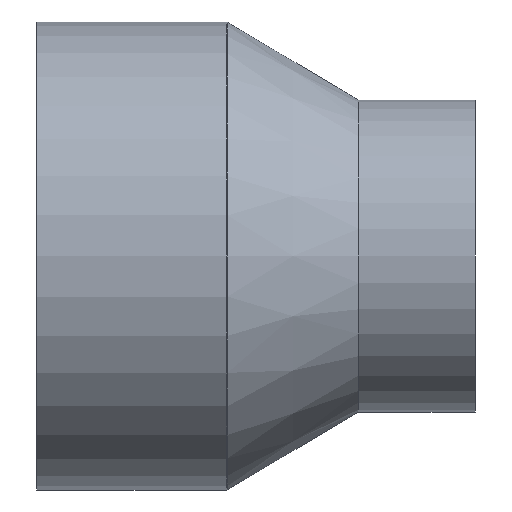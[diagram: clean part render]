
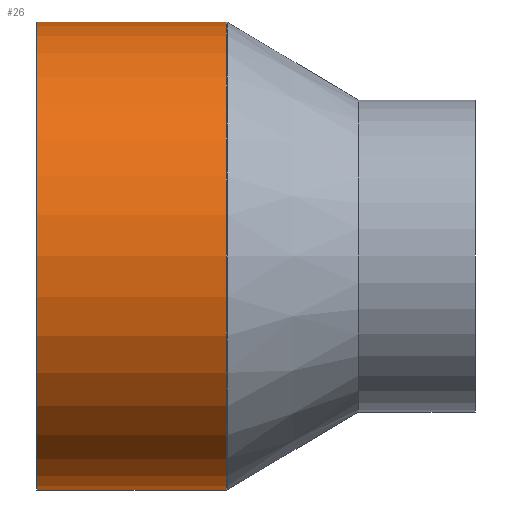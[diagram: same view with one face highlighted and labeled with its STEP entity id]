
A CAD part, front view. The second image highlights one B-rep face of the part: STEP entity #26.
In plain terms, the highlighted cylindrical face has radius 76.2 mm (diameter 152.4 mm), a partial arc.
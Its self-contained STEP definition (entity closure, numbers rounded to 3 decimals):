
#4 = CYLINDRICAL_SURFACE ( 'NONE', #273, 76.2 ) ;
#10 = VECTOR ( 'NONE', #132, 1000. ) ;
#26 = ADVANCED_FACE ( 'NONE', ( #372 ), #4, .T. ) ;
#49 = ORIENTED_EDGE ( 'NONE', *, *, #62, .F. ) ;
#56 = VECTOR ( 'NONE', #455, 1000. ) ;
#62 = EDGE_CURVE ( 'NONE', #67, #296, #474, .T. ) ;
#67 = VERTEX_POINT ( 'NONE', #354 ) ;
#82 = CARTESIAN_POINT ( 'NONE',  ( 61.783, 0., -76.2 ) ) ;
#91 = EDGE_CURVE ( 'NONE', #294, #296, #373, .T. ) ;
#95 = ORIENTED_EDGE ( 'NONE', *, *, #91, .T. ) ;
#111 = EDGE_LOOP ( 'NONE', ( #475, #486, #95, #49 ) ) ;
#132 = DIRECTION ( 'NONE',  ( -1., 0., 0. ) ) ;
#182 = CARTESIAN_POINT ( 'NONE',  ( 0., 0., 0. ) ) ;
#189 = VERTEX_POINT ( 'NONE', #82 ) ;
#202 = DIRECTION ( 'NONE',  ( 0., 0., 1. ) ) ;
#203 = EDGE_CURVE ( 'NONE', #189, #67, #224, .T. ) ;
#224 = LINE ( 'NONE', #369, #56 ) ;
#248 = CARTESIAN_POINT ( 'NONE',  ( 61.783, 0., 0. ) ) ;
#273 = AXIS2_PLACEMENT_3D ( 'NONE', #488, #285, #202 ) ;
#285 = DIRECTION ( 'NONE',  ( -1., 0., 0. ) ) ;
#293 = CARTESIAN_POINT ( 'NONE',  ( 61.783, 0., 76.2 ) ) ;
#294 = VERTEX_POINT ( 'NONE', #293 ) ;
#296 = VERTEX_POINT ( 'NONE', #416 ) ;
#348 = CARTESIAN_POINT ( 'NONE',  ( -63.937, 0., 76.2 ) ) ;
#354 = CARTESIAN_POINT ( 'NONE',  ( 0., 0., -76.2 ) ) ;
#369 = CARTESIAN_POINT ( 'NONE',  ( -63.937, 0., -76.2 ) ) ;
#372 = FACE_OUTER_BOUND ( 'NONE', #111, .T. ) ;
#373 = LINE ( 'NONE', #348, #10 ) ;
#384 = AXIS2_PLACEMENT_3D ( 'NONE', #182, #508, #438 ) ;
#395 = EDGE_CURVE ( 'NONE', #189, #294, #441, .T. ) ;
#416 = CARTESIAN_POINT ( 'NONE',  ( 0., 0., 76.2 ) ) ;
#438 = DIRECTION ( 'NONE',  ( 0., 0., 1. ) ) ;
#441 = CIRCLE ( 'NONE', #494, 76.2 ) ;
#455 = DIRECTION ( 'NONE',  ( -1., 0., 0. ) ) ;
#462 = DIRECTION ( 'NONE',  ( -1., 0., 0. ) ) ;
#473 = DIRECTION ( 'NONE',  ( 0., 0., -1. ) ) ;
#474 = CIRCLE ( 'NONE', #384, 76.2 ) ;
#475 = ORIENTED_EDGE ( 'NONE', *, *, #203, .F. ) ;
#486 = ORIENTED_EDGE ( 'NONE', *, *, #395, .T. ) ;
#488 = CARTESIAN_POINT ( 'NONE',  ( -63.937, 0., 0. ) ) ;
#494 = AXIS2_PLACEMENT_3D ( 'NONE', #248, #462, #473 ) ;
#508 = DIRECTION ( 'NONE',  ( -1., 0., 0. ) ) ;
